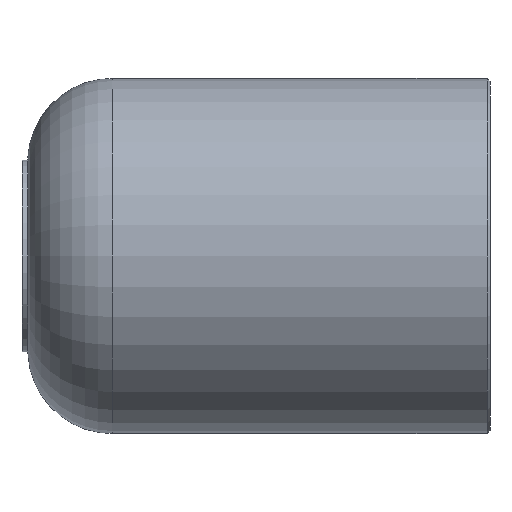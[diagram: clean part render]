
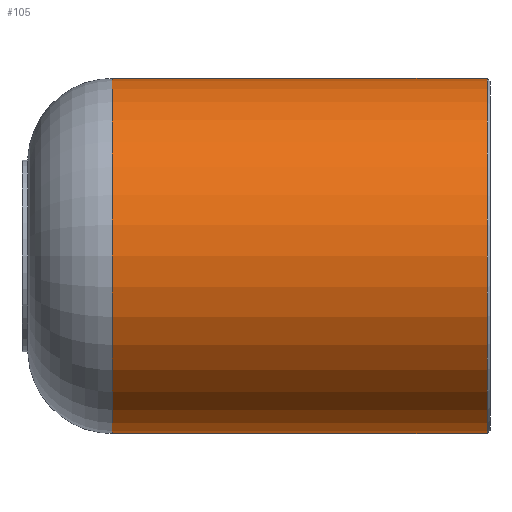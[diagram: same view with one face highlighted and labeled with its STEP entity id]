
A CAD part, front view. The second image highlights one B-rep face of the part: STEP entity #105.
In plain terms, the highlighted cylindrical face has radius 31.5 mm (diameter 63 mm), a full revolution.
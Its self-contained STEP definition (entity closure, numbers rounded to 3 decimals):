
#24=CYLINDRICAL_SURFACE('',#131,31.5);
#32=ORIENTED_EDGE('',*,*,#46,.T.);
#33=ORIENTED_EDGE('',*,*,#45,.F.);
#45=EDGE_CURVE('',#53,#53,#61,.T.);
#46=EDGE_CURVE('',#54,#54,#62,.F.);
#53=VERTEX_POINT('',#188);
#54=VERTEX_POINT('',#191);
#61=CIRCLE('',#130,31.5);
#62=CIRCLE('',#132,31.5);
#72=EDGE_LOOP('',(#32));
#73=EDGE_LOOP('',(#33));
#88=FACE_BOUND('',#72,.T.);
#89=FACE_BOUND('',#73,.T.);
#105=ADVANCED_FACE('',(#88,#89),#24,.T.);
#130=AXIS2_PLACEMENT_3D('',#187,#156,#157);
#131=AXIS2_PLACEMENT_3D('',#189,#158,#159);
#132=AXIS2_PLACEMENT_3D('',#190,#160,#161);
#156=DIRECTION('',(-1.,0.,0.));
#157=DIRECTION('',(0.,0.,1.));
#158=DIRECTION('',(-1.,0.,0.));
#159=DIRECTION('',(0.,0.,1.));
#160=DIRECTION('',(1.,0.,0.));
#161=DIRECTION('',(0.,0.,-1.));
#187=CARTESIAN_POINT('',(-33.5,0.,0.));
#188=CARTESIAN_POINT('',(-33.5,0.,31.5));
#189=CARTESIAN_POINT('',(-26.,0.,0.));
#190=CARTESIAN_POINT('',(33.,0.,0.));
#191=CARTESIAN_POINT('',(33.,0.,-31.5));
